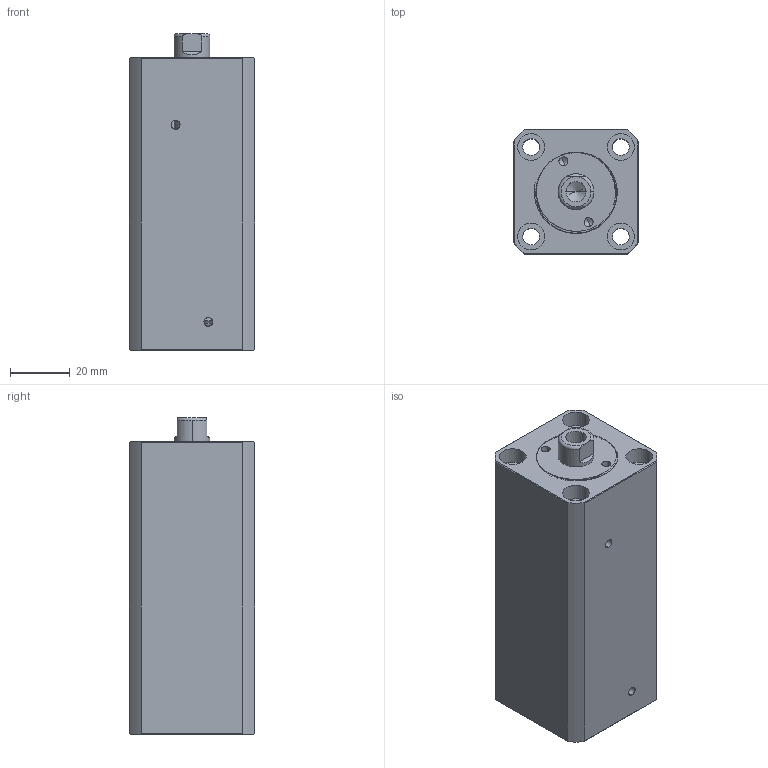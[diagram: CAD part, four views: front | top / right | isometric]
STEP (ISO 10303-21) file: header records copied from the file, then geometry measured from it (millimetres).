
FILE_DESCRIPTION (( 'STEP AP214' ), '1' );
FILE_NAME ('chtb-sdmb20x55n_asm.STEP', '2018-05-18T08:28:31', ( 'Windows' ), ( 'Microsoft' ), 'SwSTEP 2.0', 'SolidWorks 2015', '' );
FILE_SCHEMA (( 'AUTOMOTIVE_DESIGN' ));
Length unit declared in the file: millimetre
Products named in the file (4): CHTB-SDMB20X55NHSG; CHTB-SDMB20X55NBT; chtb-sdmb20x55n_asm; QG_3
Assembly tree (3 placements, depth 2):
  chtb-sdmb20x55n_asm
    CHTB-SDMB20X55NBT
    CHTB-SDMB20X55NHSG
    QG_3
Bounding box: 42 x 42 x 106 mm (x, y, z)
Volume: 145692.8 mm3; surface area: 42891.7 mm2
Topology: 3 solids, 3 shells, 201 faces, 535 edges, 354 vertices
Faces by surface type: cylinder 106, plane 43, torus 25, bspline 21, cone 6
Entity records: 11558 total; most frequent: CARTESIAN_POINT 6663, ORIENTED_EDGE 1058, DIRECTION 922, EDGE_CURVE 529, AXIS2_PLACEMENT_3D 388, VERTEX_POINT 354, EDGE_LOOP 239, CIRCLE 202
